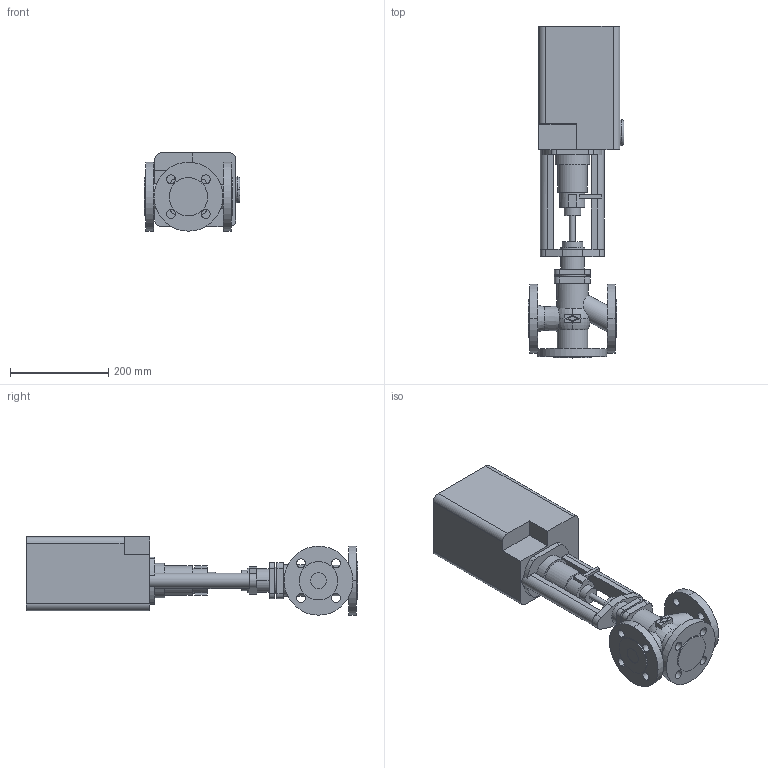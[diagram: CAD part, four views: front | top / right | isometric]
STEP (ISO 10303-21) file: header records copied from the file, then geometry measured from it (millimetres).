
FILE_DESCRIPTION(('OneSpaceDesigner STEP Export'),'2;1');
FILE_NAME('c000000391.stp','2006-09-19T11:47:16',(''),(''),'OneSpace Designer STEP processor for AP214 (Solid Model)','OneSpace Designer 13.20A 18-Aug-2005 (C) CoCreate Software GmbH','');
FILE_SCHEMA(('AUTOMOTIVE_DESIGN { 1 0 10303 214 1 1 1 1 }'));
Length unit declared in the file: millimetre
Products named in the file (2): 1; 2
Bounding box: 194.6 x 674 x 159 mm (x, y, z)
Volume: 8390262.9 mm3; surface area: 462288.8 mm2
Topology: 2 solids, 2 shells, 199 faces, 508 edges, 337 vertices
Faces by surface type: plane 94, cylinder 92, torus 9, cone 4
Entity records: 5729 total; most frequent: CARTESIAN_POINT 1135, ORIENTED_EDGE 1016, DIRECTION 859, EDGE_CURVE 508, VERTEX_POINT 337, AXIS2_PLACEMENT_3D 299, VECTOR 261, LINE 261
